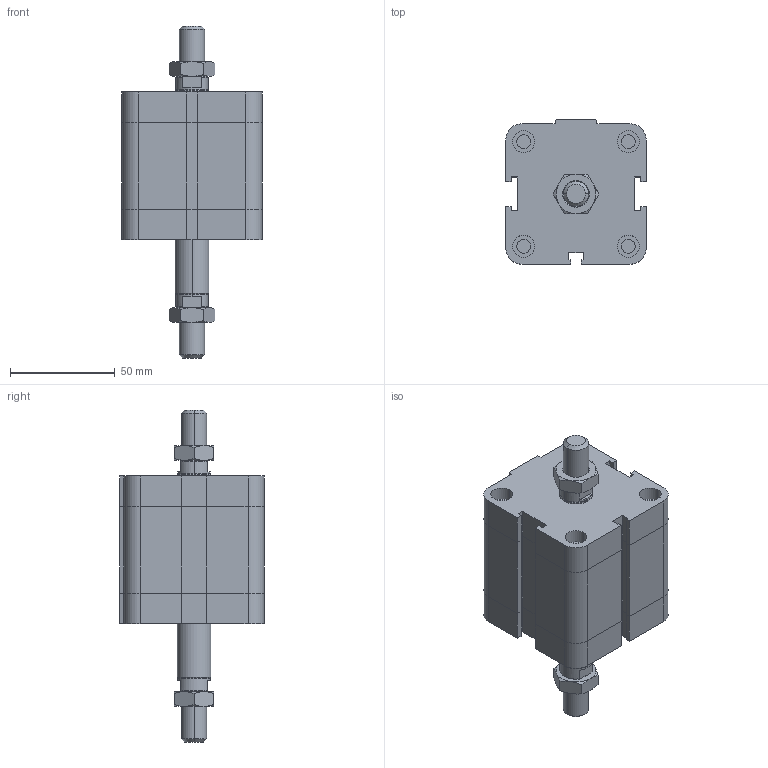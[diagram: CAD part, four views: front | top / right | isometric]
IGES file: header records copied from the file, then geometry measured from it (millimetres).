
Global section: file name: No Iges File Name specified; native system: Autodesk Inventor 2009; preprocessor: AutoDesk Inventor Iges Exporter R2009; author: maffial1; date: 20090420.200937; units: millimetre
Bounding box: 67 x 69 x 158.5 mm (x, y, z)
Volume: 309055.9 mm3; surface area: 47763 mm2
Topology: 4 solids, 4 shells, 260 faces, 574 edges, 342 vertices
Faces by surface type: plane 129, bspline 51, cone 38, cylinder 22, revolution 20
